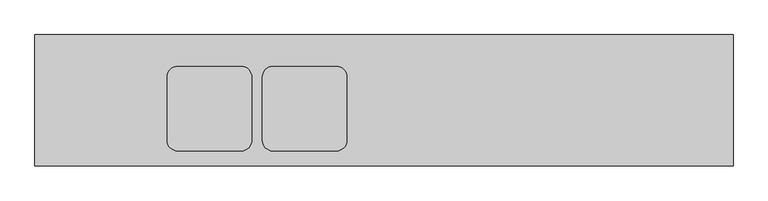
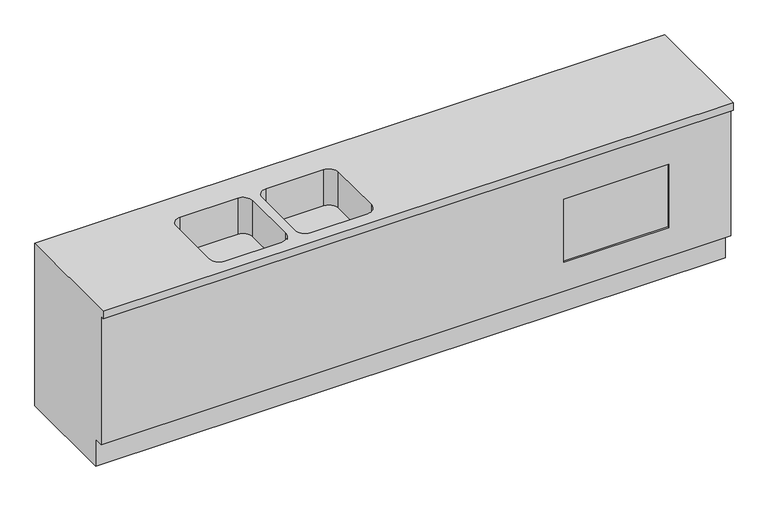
"""IFC4 building model written with IfcOpenShell, lengths in millimetres: furniture geometry, NL_73_aanrechtblok : zonder koken."""

from ifc_helpers import new_model, si_unit, frame, origin, place, context, project, spatial, polyline, circle_curve, source, transform, mapped, element, save
from ifc_brep_helpers import plane_surface, revolved_surface, advanced_brep


def furniture_c70681d7(model_context):
    return source(origin(), model_context, "Body", "AdvancedBrep", [
        advanced_brep(
        [(-1913.5686582, -550.0, 0.0), (-1913.5686582, -550.0, 150.0), (-1913.5686582, -600.0, 150.0), (-1913.5686582, -600.0, 860.0), (-1913.5686582, -620.0, 860.0), (-1913.5686582, -620.0, 900.0), (-1913.5686582, 0.0, 900.0), (-1913.5686582, 0.0, 0.0), (1386.4313418, -550.0, 0.0), (1386.4313418, 0.0, 0.0), (1386.4313418, 0.0, 900.0), (1386.4313418, -620.0, 900.0), (1386.4313418, -620.0, 860.0), (1386.4313418, -600.0, 860.0), (1386.4313418, -600.0, 150.0), (1386.4313418, -550.0, 150.0), (1061.4313418, -600.0, 660.0), (1061.4313418, -600.0, 310.0), (511.4313418, -600.0, 310.0), (511.4313418, -600.0, 660.0), (-1238.5686582, -150.0, 900.0), (-938.5686582, -150.0, 900.0), (-888.5686582, -200.0, 900.0), (-888.5686582, -500.0, 900.0), (-938.5686582, -550.0, 900.0), (-1238.5686582, -550.0, 900.0), (-1288.5686582, -500.0, 900.0), (-1288.5686582, -200.0, 900.0), (-788.5686582, -150.0, 900.0), (-488.5686582, -150.0, 900.0), (-438.5686582, -200.0, 900.0), (-438.5686582, -500.0, 900.0), (-488.5686582, -550.0, 900.0), (-788.5686582, -550.0, 900.0), (-838.5686582, -500.0, 900.0), (-838.5686582, -200.0, 900.0), (-938.5686582, -150.0, 700.0), (-1238.5686582, -150.0, 700.0), (-1288.5686582, -200.0, 700.0), (-1288.5686582, -500.0, 700.0), (-1238.5686582, -550.0, 700.0), (-938.5686582, -550.0, 700.0), (-888.5686582, -500.0, 700.0), (-888.5686582, -200.0, 700.0), (-488.5686582, -150.0, 700.0), (-788.5686582, -150.0, 700.0), (-838.5686582, -200.0, 700.0), (-838.5686582, -500.0, 700.0), (-788.5686582, -550.0, 700.0), (-488.5686582, -550.0, 700.0), (-438.5686582, -500.0, 700.0), (-438.5686582, -200.0, 700.0), (1061.4313418, -590.0, 660.0), (511.4313418, -590.0, 660.0), (511.4313418, -590.0, 310.0), (1061.4313418, -590.0, 310.0)],
        [
            (0, 1),
            (1, 2),
            (2, 3),
            (3, 4),
            (4, 5),
            (5, 6),
            (6, 7),
            (7, 0),
            (8, 9),
            (9, 10),
            (10, 11),
            (11, 12),
            (12, 13),
            (13, 14),
            (14, 15),
            (15, 8),
            (0, 8),
            (15, 1),
            (14, 2),
            (13, 3),
            (16, 17),
            (17, 18),
            (18, 19),
            (19, 16),
            (12, 4),
            (11, 5),
            (10, 6),
            (20, 21),
            (21, 22, circle_curve(frame((-938.5686582, -200.0, 900.0), z_axis=(0.0, 0.0, -1.0), x_axis=(0.0, -1.0, 0.0)), 50.0)),
            (22, 23),
            (23, 24, circle_curve(frame((-938.5686582, -500.0, 900.0), z_axis=(0.0, 0.0, -1.0), x_axis=(0.0, -1.0, 0.0)), 50.0)),
            (24, 25),
            (25, 26, circle_curve(frame((-1238.5686582, -500.0, 900.0), z_axis=(0.0, 0.0, -1.0), x_axis=(0.0, -1.0, 0.0)), 50.0)),
            (26, 27),
            (27, 20, circle_curve(frame((-1238.5686582, -200.0, 900.0), z_axis=(0.0, 0.0, -1.0), x_axis=(0.0, -1.0, 0.0)), 50.0)),
            (28, 29),
            (29, 30, circle_curve(frame((-488.5686582, -200.0, 900.0), z_axis=(0.0, 0.0, -1.0), x_axis=(0.0, -1.0, 0.0)), 50.0)),
            (30, 31),
            (31, 32, circle_curve(frame((-488.5686582, -500.0, 900.0), z_axis=(0.0, 0.0, -1.0), x_axis=(0.0, -1.0, 0.0)), 50.0)),
            (32, 33),
            (33, 34, circle_curve(frame((-788.5686582, -500.0, 900.0), z_axis=(0.0, 0.0, -1.0), x_axis=(0.0, -1.0, 0.0)), 50.0)),
            (34, 35),
            (35, 28, circle_curve(frame((-788.5686582, -200.0, 900.0), z_axis=(0.0, 0.0, -1.0), x_axis=(0.0, -1.0, 0.0)), 50.0)),
            (9, 7),
            (36, 37),
            (37, 38, circle_curve(frame((-1238.5686582, -200.0, 700.0), z_axis=(0.0, 0.0, 1.0), x_axis=(0.0, -1.0, 0.0)), 50.0)),
            (38, 39),
            (39, 40, circle_curve(frame((-1238.5686582, -500.0, 700.0), z_axis=(0.0, 0.0, 1.0), x_axis=(0.0, -1.0, 0.0)), 50.0)),
            (40, 41),
            (41, 42, circle_curve(frame((-938.5686582, -500.0, 700.0), z_axis=(0.0, 0.0, 1.0), x_axis=(0.0, -1.0, 0.0)), 50.0)),
            (42, 43),
            (43, 36, circle_curve(frame((-938.5686582, -200.0, 700.0), z_axis=(0.0, 0.0, 1.0), x_axis=(0.0, -1.0, 0.0)), 50.0)),
            (36, 21),
            (20, 37),
            (27, 38),
            (26, 39),
            (25, 40),
            (24, 41),
            (23, 42),
            (22, 43),
            (44, 45),
            (45, 46, circle_curve(frame((-788.5686582, -200.0, 700.0), z_axis=(0.0, 0.0, 1.0), x_axis=(0.0, -1.0, 0.0)), 50.0)),
            (46, 47),
            (47, 48, circle_curve(frame((-788.5686582, -500.0, 700.0), z_axis=(0.0, 0.0, 1.0), x_axis=(0.0, -1.0, 0.0)), 50.0)),
            (48, 49),
            (49, 50, circle_curve(frame((-488.5686582, -500.0, 700.0), z_axis=(0.0, 0.0, 1.0), x_axis=(0.0, -1.0, 0.0)), 50.0)),
            (50, 51),
            (51, 44, circle_curve(frame((-488.5686582, -200.0, 700.0), z_axis=(0.0, 0.0, 1.0), x_axis=(0.0, -1.0, 0.0)), 50.0)),
            (44, 29),
            (28, 45),
            (35, 46),
            (34, 47),
            (33, 48),
            (32, 49),
            (31, 50),
            (30, 51),
            (52, 53),
            (53, 54),
            (54, 55),
            (55, 52),
            (55, 17),
            (16, 52),
            (54, 18),
            (53, 19),
        ],
        [
            plane_surface(frame((-1913.5686582, 0.0, -1092.8860874), z_axis=(-1.0, 0.0, 0.0), x_axis=(0.0, 1.0, 0.0))),
            plane_surface(frame((1386.4313418, 0.0, -1092.8860874), z_axis=(1.0, 0.0, 0.0), x_axis=(0.0, 1.0, 0.0))),
            plane_surface(frame((-1913.5686582, -550.0, 0.0), z_axis=(0.0, -1.0, 0.0), x_axis=(1.0, 0.0, 0.0))),
            plane_surface(frame((-1913.5686582, -550.0, 150.0), z_axis=(0.0, 0.0, -1.0), x_axis=(1.0, 0.0, 0.0))),
            plane_surface(frame((-1913.5686582, -600.0, 150.0), z_axis=(0.0, -1.0, 0.0), x_axis=(1.0, 0.0, 0.0))),
            plane_surface(frame((-1913.5686582, -600.0, 860.0), z_axis=(0.0, 0.0, -1.0), x_axis=(1.0, 0.0, 0.0))),
            plane_surface(frame((-1913.5686582, -620.0, 860.0), z_axis=(0.0, -1.0, 0.0), x_axis=(1.0, 0.0, 0.0))),
            plane_surface(frame((-1913.5686582, -620.0, 900.0), z_axis=(0.0, 0.0, 1.0), x_axis=(1.0, 0.0, 0.0))),
            plane_surface(frame((-1913.5686582, 0.0, 900.0), z_axis=(0.0, 1.0, 0.0), x_axis=(1.0, 0.0, 0.0))),
            plane_surface(frame((-1913.5686582, 0.0, 0.0), z_axis=(0.0, 0.0, -1.0), x_axis=(1.0, 0.0, 0.0))),
            plane_surface(frame((-1238.5686582, -150.0, 700.0), z_axis=(0.0, 0.0, 1.0), x_axis=(1.0, 0.0, 0.0))),
            plane_surface(frame((-938.5686582, -150.0, 900.0), z_axis=(0.0, -1.0, 0.0), x_axis=(0.0, 0.0, -1.0))),
            revolved_surface(polyline([(-1238.5686582, -250.0, 900.0), (-1238.5686582, -250.0, 700.0)]), (-1238.5686582, -200.0, 700.0), (0.0, 0.0, 1.0)),
            plane_surface(frame((-1288.5686582, -200.0, 900.0), z_axis=(1.0, 0.0, 0.0), x_axis=(0.0, 0.0, -1.0))),
            revolved_surface(polyline([(-1238.5686582, -550.0, 900.0), (-1238.5686582, -550.0, 700.0)]), (-1238.5686582, -500.0, 700.0), (0.0, 0.0, 1.0)),
            plane_surface(frame((-1238.5686582, -550.0, 900.0), z_axis=(0.0, 1.0, 0.0), x_axis=(0.0, 0.0, -1.0))),
            revolved_surface(polyline([(-938.5686582, -550.0, 900.0), (-938.5686582, -550.0, 700.0)]), (-938.5686582, -500.0, 700.0), (0.0, 0.0, 1.0)),
            plane_surface(frame((-888.5686582, -500.0, 900.0), z_axis=(-1.0, 0.0, 0.0), x_axis=(0.0, 0.0, -1.0))),
            revolved_surface(polyline([(-938.5686582, -250.0, 900.0), (-938.5686582, -250.0, 700.0)]), (-938.5686582, -200.0, 700.0), (0.0, 0.0, 1.0)),
            plane_surface(frame((-788.5686582, -150.0, 700.0), z_axis=(0.0, 0.0, 1.0), x_axis=(1.0, 0.0, 0.0))),
            plane_surface(frame((-488.5686582, -150.0, 900.0), z_axis=(0.0, -1.0, 0.0), x_axis=(0.0, 0.0, -1.0))),
            revolved_surface(polyline([(-788.5686582, -250.0, 900.0), (-788.5686582, -250.0, 700.0)]), (-788.5686582, -200.0, 700.0), (0.0, 0.0, 1.0)),
            plane_surface(frame((-838.5686582, -200.0, 900.0), z_axis=(1.0, 0.0, 0.0), x_axis=(0.0, 0.0, -1.0))),
            revolved_surface(polyline([(-788.5686582, -550.0, 900.0), (-788.5686582, -550.0, 700.0)]), (-788.5686582, -500.0, 700.0), (0.0, 0.0, 1.0)),
            plane_surface(frame((-788.5686582, -550.0, 900.0), z_axis=(0.0, 1.0, 0.0), x_axis=(0.0, 0.0, -1.0))),
            revolved_surface(polyline([(-488.5686582, -550.0, 900.0), (-488.5686582, -550.0, 700.0)]), (-488.5686582, -500.0, 700.0), (0.0, 0.0, 1.0)),
            plane_surface(frame((-438.5686582, -500.0, 900.0), z_axis=(-1.0, 0.0, 0.0), x_axis=(0.0, 0.0, -1.0))),
            revolved_surface(polyline([(-488.5686582, -250.0, 900.0), (-488.5686582, -250.0, 700.0)]), (-488.5686582, -200.0, 700.0), (0.0, 0.0, 1.0)),
            plane_surface(frame((1061.4313418, -590.0, 660.0), z_axis=(0.0, -1.0, 0.0), x_axis=(0.0, 0.0, -1.0))),
            plane_surface(frame((1061.4313418, -590.0, 660.0), z_axis=(-1.0, 0.0, 0.0), x_axis=(0.0, -1.0, 0.0))),
            plane_surface(frame((1061.4313418, -590.0, 310.0), z_axis=(0.0, 0.0, 1.0), x_axis=(0.0, -1.0, 0.0))),
            plane_surface(frame((511.4313418, -590.0, 310.0), z_axis=(1.0, 0.0, 0.0), x_axis=(0.0, -1.0, 0.0))),
            plane_surface(frame((511.4313418, -590.0, 660.0), z_axis=(0.0, 0.0, -1.0), x_axis=(0.0, -1.0, 0.0))),
        ],
        [
            (0, [[1, 2, 3, 4, 5, 6, 7, 8]]),
            (1, [[9, 10, 11, 12, 13, 14, 15, 16]]),
            (2, [[-1, 17, -16, 18]]),
            (3, [[-2, -18, -15, 19]]),
            (4, [[-3, -19, -14, 20], [21, 22, 23, 24]]),
            (5, [[-4, -20, -13, 25]]),
            (6, [[-5, -25, -12, 26]]),
            (7, [[-6, -26, -11, 27], [28, 29, 30, 31, 32, 33, 34, 35], [36, 37, 38, 39, 40, 41, 42, 43]]),
            (8, [[-7, -27, -10, 44]]),
            (9, [[-8, -44, -9, -17]]),
            (10, [[45, 46, 47, 48, 49, 50, 51, 52]]),
            (11, [[-45, 53, -28, 54]]),
            (12, [[-46, -54, -35, 55]]),
            (13, [[-47, -55, -34, 56]]),
            (14, [[-48, -56, -33, 57]]),
            (15, [[-49, -57, -32, 58]]),
            (16, [[-50, -58, -31, 59]]),
            (17, [[-51, -59, -30, 60]]),
            (18, [[-52, -60, -29, -53]]),
            (19, [[61, 62, 63, 64, 65, 66, 67, 68]]),
            (20, [[-61, 69, -36, 70]]),
            (21, [[-62, -70, -43, 71]]),
            (22, [[-63, -71, -42, 72]]),
            (23, [[-64, -72, -41, 73]]),
            (24, [[-65, -73, -40, 74]]),
            (25, [[-66, -74, -39, 75]]),
            (26, [[-67, -75, -38, 76]]),
            (27, [[-68, -76, -37, -69]]),
            (28, [[77, 78, 79, 80]]),
            (29, [[-80, 81, -21, 82]]),
            (30, [[-79, 83, -22, -81]]),
            (31, [[-78, 84, -23, -83]]),
            (32, [[-77, -82, -24, -84]]),
        ],
    ),
    ])


if __name__ == "__main__":
    model = new_model("IFC4")
    model_context = context("Model", 3, world=origin())
    ifc_project = project(units=[si_unit("LENGTHUNIT", "METRE", prefix="MILLI")], contexts=[model_context])
    site = spatial("IfcSite", under=ifc_project)
    building = spatial("IfcBuilding", under=site)
    placement = place(None, origin())
    furniture_shape = furniture_c70681d7(model_context)
    element("IfcFurniture", 1, ObjectType="NL_73_aanrechtblok : zonder koken", at=placement, inside=building, context=model_context, shape_type="MappedRepresentation", body=[
        mapped(furniture_shape, transform((0.0, 0.0, 0.0), x_axis=(1.0, 0.0, 0.0), y_axis=(0.0, 1.0, 0.0), z_axis=(0.0, 0.0, 1.0))),
    ])
    save(model, "model.ifc")
